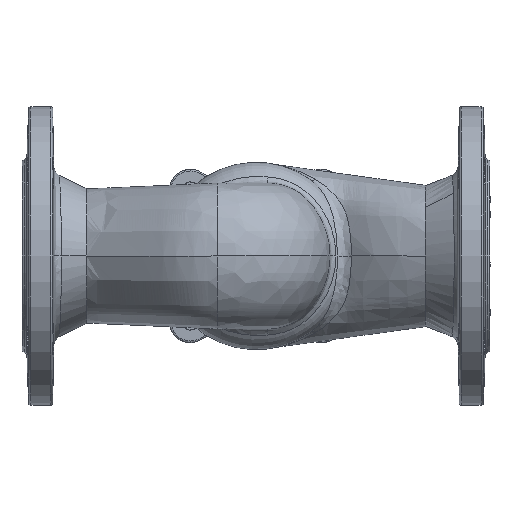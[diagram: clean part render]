
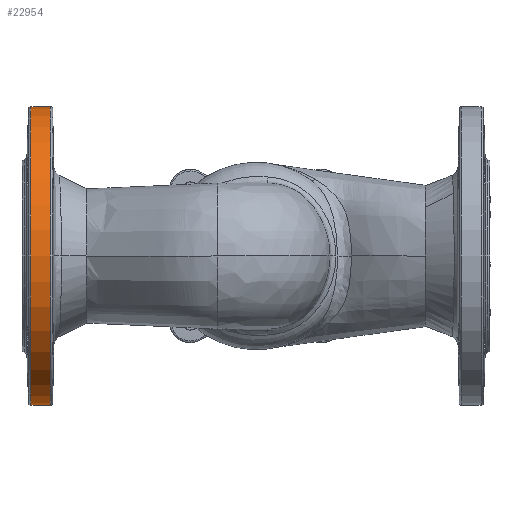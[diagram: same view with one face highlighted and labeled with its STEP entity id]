
A CAD part, front view. The second image highlights one B-rep face of the part: STEP entity #22954.
In plain terms, the highlighted cylindrical face has radius 92.5 mm (diameter 185 mm), a partial arc.
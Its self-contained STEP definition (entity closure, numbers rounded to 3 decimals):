
#932 = VERTEX_POINT ( 'NONE', #30277 ) ;
#3952 = DIRECTION ( 'NONE',  ( 0., 0., 1. ) ) ;
#4080 = CARTESIAN_POINT ( 'NONE',  ( 0., 0., 0. ) ) ;
#13033 = DIRECTION ( 'NONE',  ( -1., 0., 0. ) ) ;
#14029 = ORIENTED_EDGE ( 'NONE', *, *, #15801, .F. ) ;
#14097 = CARTESIAN_POINT ( 'NONE',  ( 0., 0., 92.5 ) ) ;
#15801 = EDGE_CURVE ( 'NONE', #932, #98263, #36922, .T. ) ;
#20651 = DIRECTION ( 'NONE',  ( -1., 0., 0. ) ) ;
#21288 = CYLINDRICAL_SURFACE ( 'NONE', #101459, 92.5 ) ;
#22954 = ADVANCED_FACE ( 'NONE', ( #29348 ), #21288, .T. ) ;
#26048 = CARTESIAN_POINT ( 'NONE',  ( 17.526, 0., -92.5 ) ) ;
#28812 = DIRECTION ( 'NONE',  ( -1., 0., 0. ) ) ;
#29348 = FACE_OUTER_BOUND ( 'NONE', #72694, .T. ) ;
#30277 = CARTESIAN_POINT ( 'NONE',  ( 5.558, 0., -92.5 ) ) ;
#32104 = CARTESIAN_POINT ( 'NONE',  ( 17.526, 0., 92.5 ) ) ;
#34835 = EDGE_CURVE ( 'NONE', #83418, #932, #92114, .T. ) ;
#36757 = CARTESIAN_POINT ( 'NONE',  ( 17.526, 0., 0. ) ) ;
#36884 = DIRECTION ( 'NONE',  ( 0., 0., 1. ) ) ;
#36922 = CIRCLE ( 'NONE', #47218, 92.5 ) ;
#44003 = EDGE_CURVE ( 'NONE', #83418, #102748, #92438, .T. ) ;
#46448 = DIRECTION ( 'NONE',  ( 0., 0., 1. ) ) ;
#47218 = AXIS2_PLACEMENT_3D ( 'NONE', #94298, #20651, #46448 ) ;
#47381 = ORIENTED_EDGE ( 'NONE', *, *, #87703, .T. ) ;
#56221 = VECTOR ( 'NONE', #13033, 1000. ) ;
#65274 = DIRECTION ( 'NONE',  ( -1., 0., 0. ) ) ;
#72694 = EDGE_LOOP ( 'NONE', ( #106076, #91100, #47381, #14029 ) ) ;
#72729 = VECTOR ( 'NONE', #65274, 1000. ) ;
#79654 = LINE ( 'NONE', #14097, #56221 ) ;
#83418 = VERTEX_POINT ( 'NONE', #26048 ) ;
#84146 = CARTESIAN_POINT ( 'NONE',  ( 5.558, 0., 92.5 ) ) ;
#87703 = EDGE_CURVE ( 'NONE', #102748, #98263, #79654, .T. ) ;
#90520 = CARTESIAN_POINT ( 'NONE',  ( 0., 0., -92.5 ) ) ;
#91100 = ORIENTED_EDGE ( 'NONE', *, *, #44003, .T. ) ;
#92114 = LINE ( 'NONE', #90520, #72729 ) ;
#92357 = AXIS2_PLACEMENT_3D ( 'NONE', #36757, #93744, #3952 ) ;
#92438 = CIRCLE ( 'NONE', #92357, 92.5 ) ;
#93744 = DIRECTION ( 'NONE',  ( -1., 0., 0. ) ) ;
#94298 = CARTESIAN_POINT ( 'NONE',  ( 5.558, 0., 0. ) ) ;
#98263 = VERTEX_POINT ( 'NONE', #84146 ) ;
#101459 = AXIS2_PLACEMENT_3D ( 'NONE', #4080, #28812, #36884 ) ;
#102748 = VERTEX_POINT ( 'NONE', #32104 ) ;
#106076 = ORIENTED_EDGE ( 'NONE', *, *, #34835, .F. ) ;
